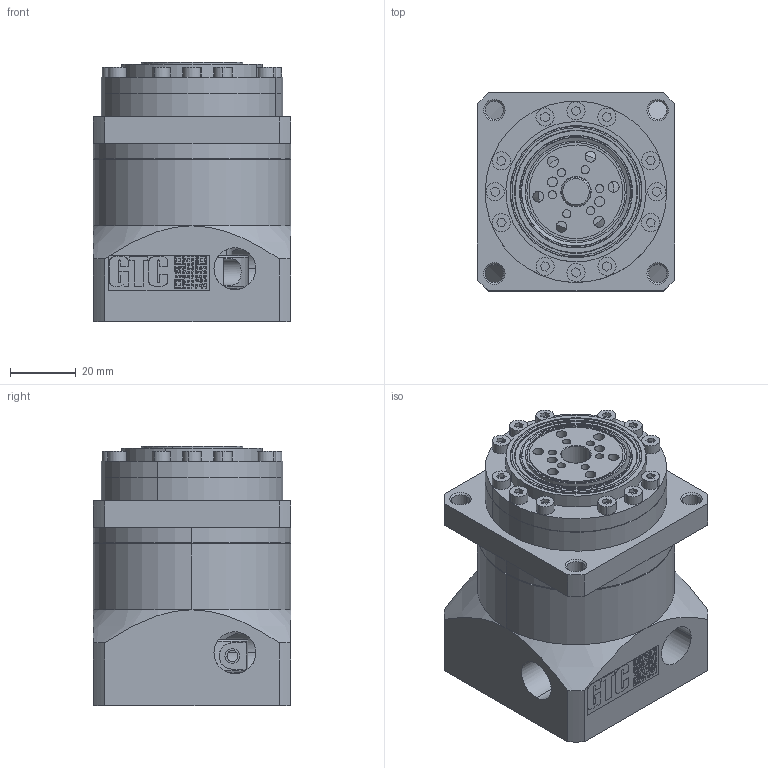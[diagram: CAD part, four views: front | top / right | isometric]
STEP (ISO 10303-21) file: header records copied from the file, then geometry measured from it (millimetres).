
FILE_DESCRIPTION (( 'STEP AP203' ), '1' );
FILE_NAME ('GNDU60L1-14-50-70-M4(20160726).STEP', '2016-07-26T03:13:07', ( 'user' ), ( '' ), 'SwSTEP 2.0', 'SolidWorks 2012', '' );
FILE_SCHEMA (( 'CONFIG_CONTROL_DESIGN' ));
Length unit declared in the file: millimetre
Products named in the file (1): GNDU60L1-14-50-70-M4(20160726)
Bounding box: 60 x 60.01 x 78.5 mm (x, y, z)
Volume: 140151 mm3; surface area: 72249.2 mm2
Topology: 21 solids, 21 shells, 2220 faces, 5145 edges, 3067 vertices
Faces by surface type: cone 1039, plane 685, cylinder 441, torus 31, bspline 24
Entity records: 68098 total; most frequent: CARTESIAN_POINT 17207, DIRECTION 10981, ORIENTED_EDGE 10262, EDGE_CURVE 5131, AXIS2_PLACEMENT_3D 3967, VERTEX_POINT 3067, LINE 3047, VECTOR 3047
